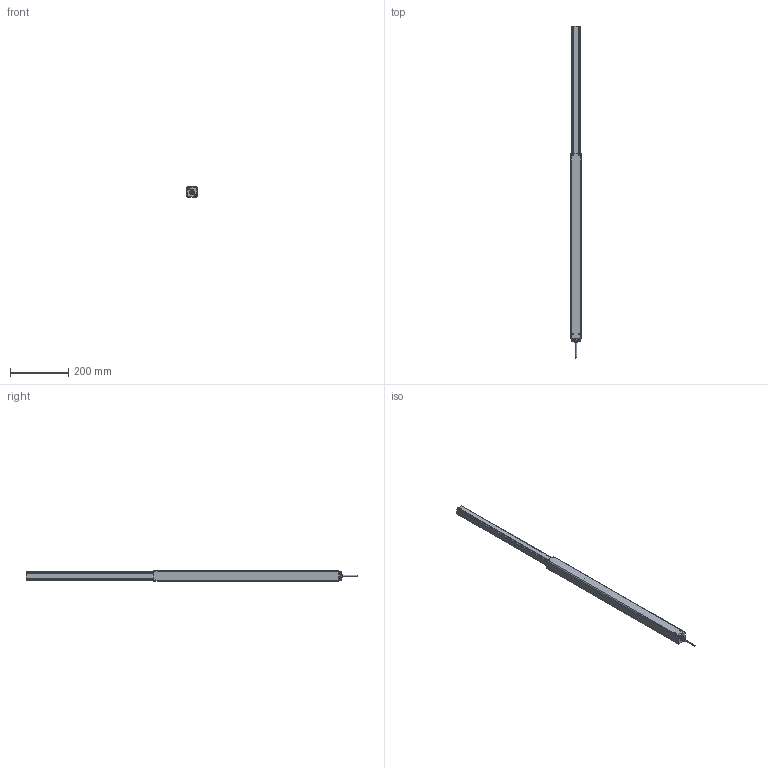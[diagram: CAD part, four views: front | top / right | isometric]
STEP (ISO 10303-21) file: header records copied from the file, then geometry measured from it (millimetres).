
FILE_DESCRIPTION(/* description */ ('Unknown'),/* implementation_level */ '2;1');
FILE_NAME(/* name */ '306.10024 Lineareinheit LH 1440 V ausgefahren',/* time_stamp */ '2018-02-15T09:51:21+01:00',/* author */ ('Unknown'),/* organization */ ('Unknown'),/* preprocessor_version */ 'ST-DEVELOPER v16.7',/* originating_system */ 'DEX',/* authorisation */ $);
FILE_SCHEMA (('AUTOMOTIVE_DESIGN {1 0 10303 214 3 1 1}'));
Length unit declared in the file: millimetre
Products named in the file (14): 306.10024; 107.00264_oa_0; 115.00007_oa_1; 115.00112_oa_2; 125.00247; 142.00021; 125.00021; 127.00249; 127.00235_oa_3; Aussenrohr LH 1450; Innenrohr LH 1450; 113.00002_70mm; 142.00031; 142.00138
Assembly tree (14 placements, depth 4):
  306.10024
    107.00264_oa_0
      115.00007_oa_1
      115.00112_oa_2
        125.00247
      142.00021
      125.00021
    127.00249
    127.00235_oa_3
      Aussenrohr LH 1450
      Innenrohr LH 1450
    113.00002_70mm
    142.00031
    142.00138  x2
Bounding box: 35 x 1140 x 35 mm (x, y, z)
Volume: 305630.1 mm3; surface area: 295250.4 mm2
Topology: 11 solids, 11 shells, 232 faces, 571 edges, 374 vertices
Faces by surface type: plane 115, cylinder 98, cone 11, torus 7, sphere 1
Full cylindrical faces by diameter (mm): 1.8 x2, 2.2 x1, 2.99 x1, 3 x2, 3.5 x1, 4 x1, 4.1 x1, 4.134 x6, 4.2 x1, 5 x3, 6 x2, 6.917 x2, 8 x3, 8.376 x1, 8.5 x2, 8.917 x2, 12.5 x1, 13 x3, 13.2 x1, 23.6 x1, 25 x1
Entity records: 7415 total; most frequent: DIRECTION 1130, CARTESIAN_POINT 1123, ORIENTED_EDGE 976, EDGE_CURVE 488, AXIS2_PLACEMENT_3D 428, VERTEX_POINT 349, FACE_BOUND 313, EDGE_LOOP 312
